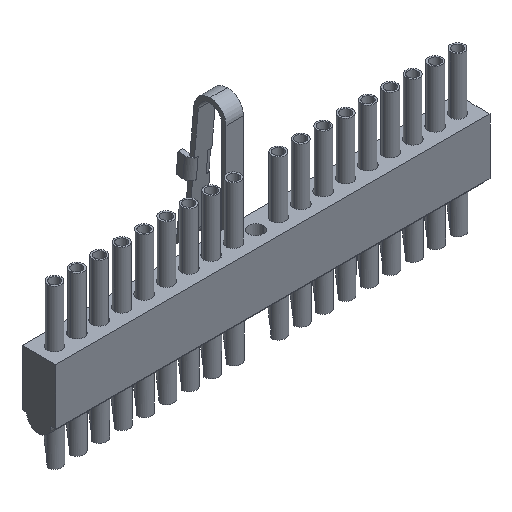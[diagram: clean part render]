
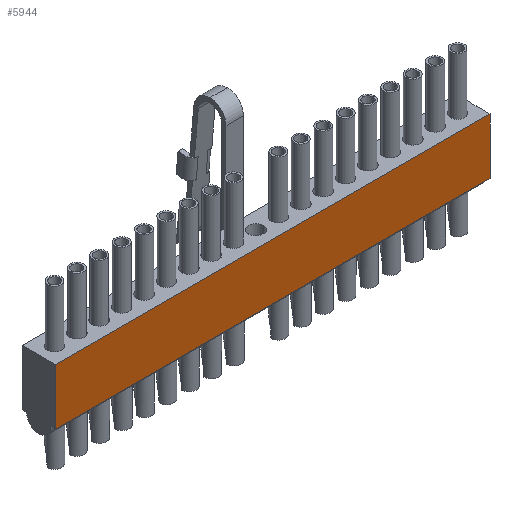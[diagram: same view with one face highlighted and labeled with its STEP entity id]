
A CAD part, isometric view. The second image highlights one B-rep face of the part: STEP entity #5944.
In plain terms, the highlighted planar face has unit normal (0, -1, 0).
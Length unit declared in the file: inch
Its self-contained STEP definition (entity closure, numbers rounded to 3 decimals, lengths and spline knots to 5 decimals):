
#180 = CARTESIAN_POINT ( 'NONE',  ( -0.485, -0.0375, -0.0625 ) ) ;
#550 = CARTESIAN_POINT ( 'NONE',  ( 2.0625, -0.0375, 0.0625 ) ) ;
#972 = VERTEX_POINT ( 'NONE', #14810 ) ;
#1183 = EDGE_CURVE ( 'NONE', #972, #15004, #17162, .T. ) ;
#2467 = VERTEX_POINT ( 'NONE', #180 ) ;
#2700 = LINE ( 'NONE', #5398, #17040 ) ;
#3863 = AXIS2_PLACEMENT_3D ( 'NONE', #550, #6079, #18822 ) ;
#4305 = DIRECTION ( 'NONE',  ( 0., 0., -1. ) ) ;
#5213 = EDGE_CURVE ( 'NONE', #21218, #2467, #17312, .T. ) ;
#5398 = CARTESIAN_POINT ( 'NONE',  ( 0.485, -0.0375, 0.0625 ) ) ;
#5713 = VECTOR ( 'NONE', #4305, 39.37008 ) ;
#5944 = ADVANCED_FACE ( 'NONE', ( #16147 ), #17003, .F. ) ;
#6079 = DIRECTION ( 'NONE',  ( 0., 1., 0. ) ) ;
#8445 = ORIENTED_EDGE ( 'NONE', *, *, #9493, .T. ) ;
#9493 = EDGE_CURVE ( 'NONE', #15004, #2467, #19651, .T. ) ;
#10069 = DIRECTION ( 'NONE',  ( -1., 0., 0. ) ) ;
#10916 = DIRECTION ( 'NONE',  ( -1., 0., 0. ) ) ;
#11913 = CARTESIAN_POINT ( 'NONE',  ( 0.485, -0.0375, -0.0625 ) ) ;
#12460 = VECTOR ( 'NONE', #10916, 39.37008 ) ;
#12511 = CARTESIAN_POINT ( 'NONE',  ( -0.485, -0.0375, 0.0625 ) ) ;
#13436 = ORIENTED_EDGE ( 'NONE', *, *, #19813, .F. ) ;
#14810 = CARTESIAN_POINT ( 'NONE',  ( 0.485, -0.0375, 0.0625 ) ) ;
#15004 = VERTEX_POINT ( 'NONE', #12511 ) ;
#15202 = CARTESIAN_POINT ( 'NONE',  ( -0.485, -0.0375, 0.0625 ) ) ;
#15492 = CARTESIAN_POINT ( 'NONE',  ( 2.0625, -0.0375, 0.0625 ) ) ;
#16147 = FACE_OUTER_BOUND ( 'NONE', #19387, .T. ) ;
#17003 = PLANE ( 'NONE',  #3863 ) ;
#17040 = VECTOR ( 'NONE', #18124, 39.37008 ) ;
#17162 = LINE ( 'NONE', #15492, #20833 ) ;
#17312 = LINE ( 'NONE', #21808, #12460 ) ;
#17707 = ORIENTED_EDGE ( 'NONE', *, *, #1183, .T. ) ;
#18124 = DIRECTION ( 'NONE',  ( 0., 0., -1. ) ) ;
#18822 = DIRECTION ( 'NONE',  ( 0., 0., 1. ) ) ;
#19387 = EDGE_LOOP ( 'NONE', ( #13436, #17707, #8445, #23032 ) ) ;
#19651 = LINE ( 'NONE', #15202, #5713 ) ;
#19813 = EDGE_CURVE ( 'NONE', #972, #21218, #2700, .T. ) ;
#20833 = VECTOR ( 'NONE', #10069, 39.37008 ) ;
#21218 = VERTEX_POINT ( 'NONE', #11913 ) ;
#21808 = CARTESIAN_POINT ( 'NONE',  ( 2.0625, -0.0375, -0.0625 ) ) ;
#23032 = ORIENTED_EDGE ( 'NONE', *, *, #5213, .F. ) ;
